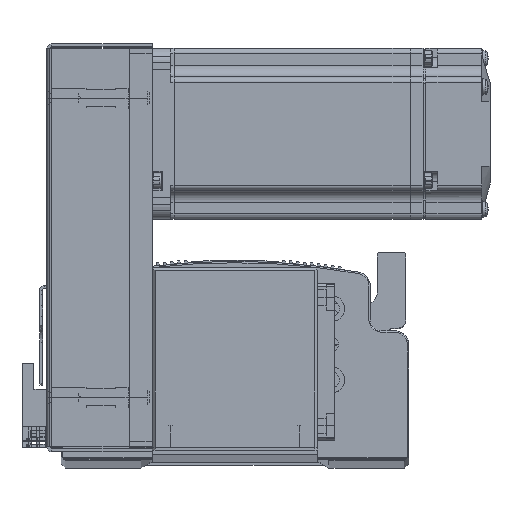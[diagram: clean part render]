
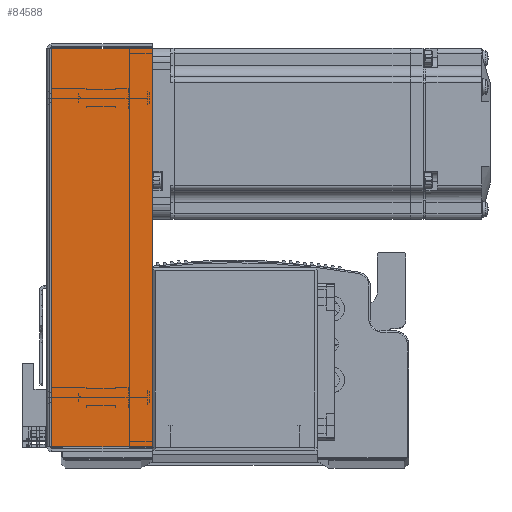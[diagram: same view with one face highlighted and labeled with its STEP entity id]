
A CAD part, top view. The second image highlights one B-rep face of the part: STEP entity #84588.
In plain terms, the highlighted planar face has unit normal (0, 0, 1) as drawn and (0, 0, -1) by its records, which use the part's own axes.
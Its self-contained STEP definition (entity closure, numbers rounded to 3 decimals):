
#8654 = ORIENTED_EDGE ( 'NONE', *, *, #83380, .T. ) ;
#8668 = ORIENTED_EDGE ( 'NONE', *, *, #83283, .F. ) ;
#8783 = ORIENTED_EDGE ( 'NONE', *, *, #83485, .F. ) ;
#8823 = ORIENTED_EDGE ( 'NONE', *, *, #83266, .T. ) ;
#13245 = VERTEX_POINT ( 'NONE', #64434 ) ;
#13247 = VERTEX_POINT ( 'NONE', #64437 ) ;
#13249 = VERTEX_POINT ( 'NONE', #64398 ) ;
#13321 = VERTEX_POINT ( 'NONE', #64483 ) ;
#64398 = CARTESIAN_POINT ( 'NONE',  ( 69.793, 0.737, -33.5 ) ) ;
#64434 = CARTESIAN_POINT ( 'NONE',  ( -69.793, 36., -33.5 ) ) ;
#64437 = CARTESIAN_POINT ( 'NONE',  ( -69.793, 0.737, -33.5 ) ) ;
#64483 = CARTESIAN_POINT ( 'NONE',  ( 69.793, 36., -33.5 ) ) ;
#64944 = DIRECTION ( 'NONE',  ( 0., 0., 1. ) ) ;
#64954 = CARTESIAN_POINT ( 'NONE',  ( 0., 0., -33.5 ) ) ;
#64981 = PLANE ( 'NONE',  #67905 ) ;
#65008 = DIRECTION ( 'NONE',  ( 0., -1., 0. ) ) ;
#67905 = AXIS2_PLACEMENT_3D ( 'NONE', #64954, #64944, #65008 ) ;
#68422 = EDGE_LOOP ( 'NONE', ( #8668, #8654, #8823, #8783 ) ) ;
#72376 = FACE_OUTER_BOUND ( 'NONE', #68422, .T. ) ;
#77699 = CARTESIAN_POINT ( 'NONE',  ( 71.5, 0.737, -33.5 ) ) ;
#77713 = DIRECTION ( 'NONE',  ( 1., 0., 0. ) ) ;
#77981 = CARTESIAN_POINT ( 'NONE',  ( -69.793, 0., -33.5 ) ) ;
#78024 = DIRECTION ( 'NONE',  ( 0., 1., 0. ) ) ;
#78237 = CARTESIAN_POINT ( 'NONE',  ( 69.793, 0., -33.5 ) ) ;
#78311 = DIRECTION ( 'NONE',  ( 0., 1., 0. ) ) ;
#83266 = EDGE_CURVE ( 'NONE', #13245, #13321, #85519, .T. ) ;
#83283 = EDGE_CURVE ( 'NONE', #13247, #13249, #85578, .T. ) ;
#83380 = EDGE_CURVE ( 'NONE', #13247, #13245, #85620, .T. ) ;
#83485 = EDGE_CURVE ( 'NONE', #13249, #13321, #85693, .T. ) ;
#84588 = ADVANCED_FACE ( 'NONE', ( #72376 ), #64981, .F. ) ;
#85519 = LINE ( 'NONE', #89822, #85544 ) ;
#85544 = VECTOR ( 'NONE', #89803, 1000. ) ;
#85578 = LINE ( 'NONE', #77699, #85579 ) ;
#85579 = VECTOR ( 'NONE', #77713, 1000. ) ;
#85605 = VECTOR ( 'NONE', #78024, 1000. ) ;
#85620 = LINE ( 'NONE', #77981, #85605 ) ;
#85693 = LINE ( 'NONE', #78237, #85704 ) ;
#85704 = VECTOR ( 'NONE', #78311, 1000. ) ;
#89803 = DIRECTION ( 'NONE',  ( 1., 0., 0. ) ) ;
#89822 = CARTESIAN_POINT ( 'NONE',  ( 0., 36., -33.5 ) ) ;
